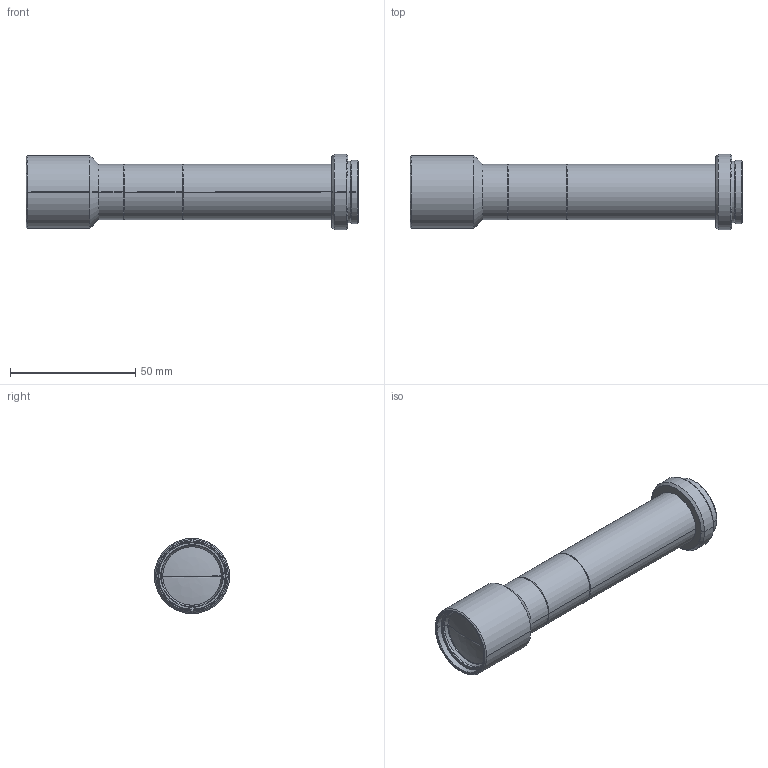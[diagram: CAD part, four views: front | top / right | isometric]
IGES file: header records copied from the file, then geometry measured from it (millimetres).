
Start section: SolidWorks IGES file using analytic representation for surfaces
Global section: file name: \\192.168.1.203\development\02 テレセントリックレンズ\02 VS-TCH Series\100-110mm\020 VS-TCH2-110&CO\3D\VS-TCH2-110.IGS; native system: SolidWorks 2012; preprocessor: SolidWorks 2012; author: Tsuji_vst; date: 130913.091218; units: millimetre
Bounding box: 132.5 x 30 x 30 mm (x, y, z)
Surface area: 15705.5 mm2 (no closed solid volume)
Topology: 0 solids, 0 shells, 87 faces, 984 edges, 982 vertices
Faces by surface type: revolution 78, bspline 9
